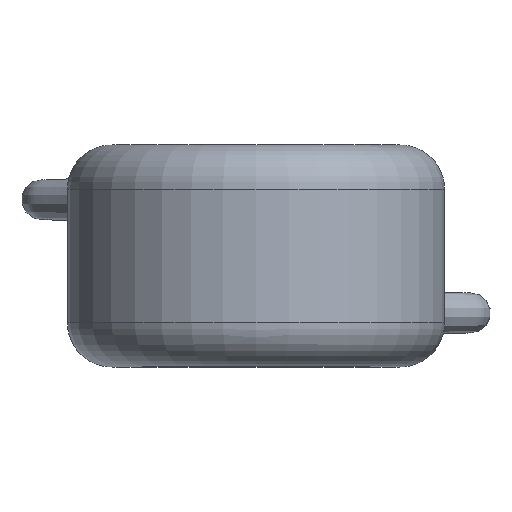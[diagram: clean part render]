
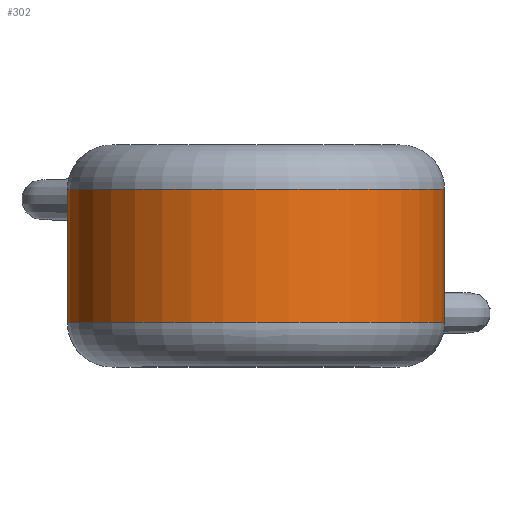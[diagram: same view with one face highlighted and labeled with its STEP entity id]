
A CAD part, top view. The second image highlights one B-rep face of the part: STEP entity #302.
In plain terms, the highlighted cylindrical face has radius 4.25 mm (diameter 8.5 mm), a full revolution.
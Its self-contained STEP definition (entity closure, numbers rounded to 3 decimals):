
#24=B_SPLINE_CURVE_WITH_KNOTS('',3,(#915,#916,#917,#918,#919,#920,#921,
#922,#923,#924),.UNSPECIFIED.,.F.,.F.,(4,1,1,1,1,1,1,4),(-0.231,
-0.198,-0.165,-0.132,-0.099,
-0.066,-0.033,0.),.UNSPECIFIED.);
#26=B_SPLINE_CURVE_WITH_KNOTS('',3,(#992,#993,#994,#995,#996,#997,#998,
#999,#1000,#1001),.UNSPECIFIED.,.F.,.F.,(4,1,1,1,1,1,1,4),(-0.231,
-0.198,-0.165,-0.132,-0.099,
-0.049,-0.033,0.),.UNSPECIFIED.);
#72=FACE_OUTER_BOUND('',#92,.T.);
#92=EDGE_LOOP('',(#241,#242,#243,#244,#245,#246,#247,#248,#249,#250));
#105=LINE('',#986,#108);
#108=VECTOR('',#407,4.25);
#120=CIRCLE('',#347,4.25);
#121=CIRCLE('',#348,4.25);
#122=CIRCLE('',#349,4.25);
#123=CIRCLE('',#351,4.25);
#124=CIRCLE('',#352,4.25);
#125=CIRCLE('',#353,4.25);
#143=VERTEX_POINT('',#911);
#144=VERTEX_POINT('',#913);
#147=VERTEX_POINT('',#978);
#148=VERTEX_POINT('',#981);
#149=VERTEX_POINT('',#985);
#150=VERTEX_POINT('',#987);
#151=VERTEX_POINT('',#989);
#152=VERTEX_POINT('',#991);
#176=EDGE_CURVE('',#143,#144,#24,.T.);
#181=EDGE_CURVE('',#144,#147,#120,.T.);
#182=EDGE_CURVE('',#148,#143,#121,.T.);
#183=EDGE_CURVE('',#147,#148,#122,.T.);
#184=EDGE_CURVE('',#148,#149,#105,.T.);
#185=EDGE_CURVE('',#149,#150,#123,.T.);
#186=EDGE_CURVE('',#150,#151,#124,.T.);
#187=EDGE_CURVE('',#151,#152,#26,.T.);
#188=EDGE_CURVE('',#152,#149,#125,.T.);
#241=ORIENTED_EDGE('',*,*,#176,.T.);
#242=ORIENTED_EDGE('',*,*,#181,.T.);
#243=ORIENTED_EDGE('',*,*,#183,.T.);
#244=ORIENTED_EDGE('',*,*,#184,.T.);
#245=ORIENTED_EDGE('',*,*,#185,.T.);
#246=ORIENTED_EDGE('',*,*,#186,.T.);
#247=ORIENTED_EDGE('',*,*,#187,.T.);
#248=ORIENTED_EDGE('',*,*,#188,.T.);
#249=ORIENTED_EDGE('',*,*,#184,.F.);
#250=ORIENTED_EDGE('',*,*,#182,.T.);
#292=CYLINDRICAL_SURFACE('',#350,4.25);
#302=ADVANCED_FACE('',(#72),#292,.T.);
#347=AXIS2_PLACEMENT_3D('',#980,#399,#400);
#348=AXIS2_PLACEMENT_3D('',#982,#401,#402);
#349=AXIS2_PLACEMENT_3D('',#983,#403,#404);
#350=AXIS2_PLACEMENT_3D('',#984,#405,#406);
#351=AXIS2_PLACEMENT_3D('',#988,#408,#409);
#352=AXIS2_PLACEMENT_3D('',#990,#410,#411);
#353=AXIS2_PLACEMENT_3D('',#1002,#412,#413);
#399=DIRECTION('center_axis',(0.,-1.,0.));
#400=DIRECTION('ref_axis',(-1.,0.,0.));
#401=DIRECTION('center_axis',(0.,-1.,0.));
#402=DIRECTION('ref_axis',(-1.,0.,0.));
#403=DIRECTION('center_axis',(0.,-1.,0.));
#404=DIRECTION('ref_axis',(-1.,0.,0.));
#405=DIRECTION('center_axis',(0.,-1.,0.));
#406=DIRECTION('ref_axis',(1.,0.,0.));
#407=DIRECTION('',(0.,-1.,0.));
#408=DIRECTION('center_axis',(0.,1.,0.));
#409=DIRECTION('ref_axis',(-1.,0.,0.));
#410=DIRECTION('center_axis',(0.,1.,0.));
#411=DIRECTION('ref_axis',(-1.,0.,0.));
#412=DIRECTION('center_axis',(0.,1.,0.));
#413=DIRECTION('ref_axis',(-1.,0.,0.));
#911=CARTESIAN_POINT('',(-3.683,1.5,-2.122));
#913=CARTESIAN_POINT('',(-3.04,1.5,-2.97));
#915=CARTESIAN_POINT('Ctrl Pts',(-3.683,1.5,-2.122));
#916=CARTESIAN_POINT('Ctrl Pts',(-3.704,1.399,-2.085));
#917=CARTESIAN_POINT('Ctrl Pts',(-3.717,1.171,-2.061));
#918=CARTESIAN_POINT('Ctrl Pts',(-3.643,0.864,-2.193));
#919=CARTESIAN_POINT('Ctrl Pts',(-3.489,0.685,-2.434));
#920=CARTESIAN_POINT('Ctrl Pts',(-3.287,0.682,-2.701));
#921=CARTESIAN_POINT('Ctrl Pts',(-3.097,0.862,-2.914));
#922=CARTESIAN_POINT('Ctrl Pts',(-2.993,1.171,-3.017));
#923=CARTESIAN_POINT('Ctrl Pts',(-3.011,1.399,-2.999));
#924=CARTESIAN_POINT('Ctrl Pts',(-3.04,1.5,-2.97));
#978=CARTESIAN_POINT('',(0.,1.5,-4.25));
#980=CARTESIAN_POINT('Origin',(0.,1.5,0.));
#981=CARTESIAN_POINT('',(-4.25,1.5,0.));
#982=CARTESIAN_POINT('Origin',(0.,1.5,0.));
#983=CARTESIAN_POINT('Origin',(0.,1.5,0.));
#984=CARTESIAN_POINT('Origin',(0.,0.,0.));
#985=CARTESIAN_POINT('',(-4.25,-1.5,0.));
#986=CARTESIAN_POINT('',(-4.25,0.,0.));
#987=CARTESIAN_POINT('',(0.,-1.5,4.25));
#988=CARTESIAN_POINT('Origin',(0.,-1.5,0.));
#989=CARTESIAN_POINT('',(3.683,-1.5,-2.122));
#990=CARTESIAN_POINT('Origin',(0.,-1.5,0.));
#991=CARTESIAN_POINT('',(3.04,-1.5,-2.97));
#992=CARTESIAN_POINT('Ctrl Pts',(3.683,-1.5,-2.122));
#993=CARTESIAN_POINT('Ctrl Pts',(3.704,-1.399,-2.085));
#994=CARTESIAN_POINT('Ctrl Pts',(3.717,-1.171,-2.061));
#995=CARTESIAN_POINT('Ctrl Pts',(3.642,-0.864,-2.194));
#996=CARTESIAN_POINT('Ctrl Pts',(3.49,-0.686,-2.433));
#997=CARTESIAN_POINT('Ctrl Pts',(3.253,-0.681,-2.746));
#998=CARTESIAN_POINT('Ctrl Pts',(3.068,-0.91,-2.943));
#999=CARTESIAN_POINT('Ctrl Pts',(2.998,-1.229,-3.012));
#1000=CARTESIAN_POINT('Ctrl Pts',(3.011,-1.399,-2.999));
#1001=CARTESIAN_POINT('Ctrl Pts',(3.04,-1.5,-2.97));
#1002=CARTESIAN_POINT('Origin',(0.,-1.5,0.));
